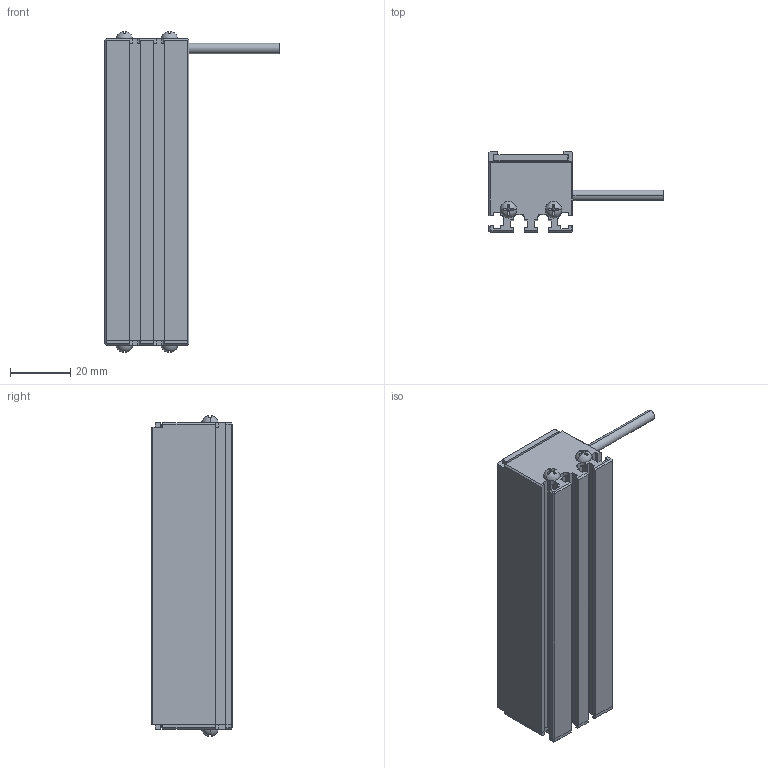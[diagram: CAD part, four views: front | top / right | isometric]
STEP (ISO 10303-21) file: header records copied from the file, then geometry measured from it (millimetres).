
FILE_DESCRIPTION((''),'2;1');
FILE_NAME('MV-LLDS-102-28_ASM','2020-12-29T',('Administrator'),(''),'PRO/ENGINEER BY PARAMETRIC TECHNOLOGY CORPORATION, 2010100','PRO/ENGINEER BY PARAMETRIC TECHNOLOGY CORPORATION, 2010100','');
FILE_SCHEMA(('CONFIG_CONTROL_DESIGN'));
Length unit declared in the file: millimetre
Products named in the file (3): BL-4_3; M3-5_3; MV-LLDS-102-28_ASM
Assembly tree (5 placements, depth 2):
  MV-LLDS-102-28_ASM
    BL-4_3
    M3-5_3  x4
Bounding box: 58 x 27 x 106.68 mm (x, y, z)
Volume: 63317.3 mm3; surface area: 27490.4 mm2
Topology: 5 solids, 14 shells, 367 faces, 1000 edges, 648 vertices
Faces by surface type: plane 235, cylinder 80, cone 20, bspline 16, torus 8, sphere 8
Entity records: 8915 total; most frequent: CARTESIAN_POINT 1846, ORIENTED_EDGE 1462, DIRECTION 1419, EDGE_CURVE 741, VECTOR 563, LINE 563, VERTEX_POINT 489, AXIS2_PLACEMENT_3D 428
